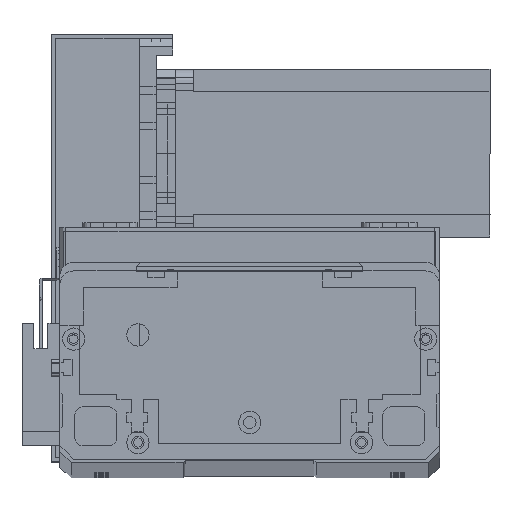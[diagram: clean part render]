
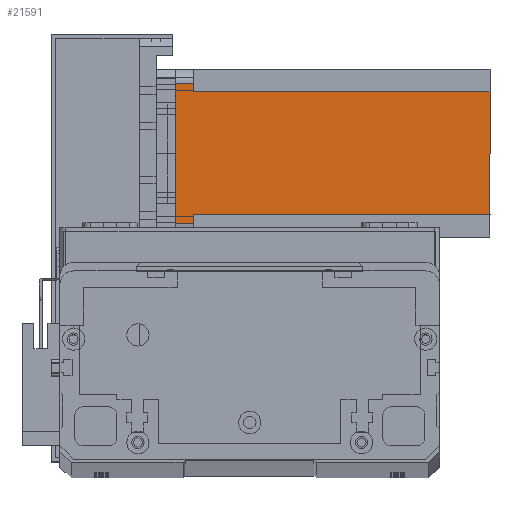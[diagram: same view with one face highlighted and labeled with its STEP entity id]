
A CAD part, top view. The second image highlights one B-rep face of the part: STEP entity #21591.
In plain terms, the highlighted planar face has unit normal (0, 0, 1) as drawn and (0, -1, 0) by its records, which use the part's own axes.
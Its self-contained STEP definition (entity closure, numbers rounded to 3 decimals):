
#146 = CARTESIAN_POINT ( 'NONE',  ( 0., 0., 0. ) ) ;
#2594 = CARTESIAN_POINT ( 'NONE',  ( 5., 0., -6.5 ) ) ;
#3054 = LINE ( 'NONE', #5882, #28085 ) ;
#3252 = DIRECTION ( 'NONE',  ( 0., -1., 0. ) ) ;
#4931 = VERTEX_POINT ( 'NONE', #16869 ) ;
#4965 = LINE ( 'NONE', #6131, #29124 ) ;
#5408 = LINE ( 'NONE', #8189, #18425 ) ;
#5534 = CARTESIAN_POINT ( 'NONE',  ( 0., 0., -112.5 ) ) ;
#5882 = CARTESIAN_POINT ( 'NONE',  ( 5., 0., -112.5 ) ) ;
#5980 = DIRECTION ( 'NONE',  ( 0., 0., -1. ) ) ;
#6098 = EDGE_LOOP ( 'NONE', ( #11736, #17032, #15186, #20441, #30064, #22695, #20837, #26791 ) ) ;
#6131 = CARTESIAN_POINT ( 'NONE',  ( 52., 0., -112.5 ) ) ;
#6200 = DIRECTION ( 'NONE',  ( 0., 0., -1. ) ) ;
#6395 = CARTESIAN_POINT ( 'NONE',  ( 52., 0., -112.5 ) ) ;
#7059 = VECTOR ( 'NONE', #27621, 1000. ) ;
#7548 = CARTESIAN_POINT ( 'NONE',  ( 55., 0., 0. ) ) ;
#7708 = VECTOR ( 'NONE', #8700, 1000. ) ;
#8106 = DIRECTION ( 'NONE',  ( 0., 0., 1. ) ) ;
#8142 = CARTESIAN_POINT ( 'NONE',  ( 55., 0., -112.5 ) ) ;
#8189 = CARTESIAN_POINT ( 'NONE',  ( 8., 0., -6.5 ) ) ;
#8202 = CARTESIAN_POINT ( 'NONE',  ( 5., 0., 0. ) ) ;
#8234 = PLANE ( 'NONE',  #24498 ) ;
#8286 = DIRECTION ( 'NONE',  ( -1., 0., 0. ) ) ;
#8700 = DIRECTION ( 'NONE',  ( 1., 0., 0. ) ) ;
#9084 = EDGE_CURVE ( 'NONE', #4931, #13065, #4965, .T. ) ;
#9249 = LINE ( 'NONE', #16363, #14977 ) ;
#9680 = EDGE_CURVE ( 'NONE', #11554, #13065, #26162, .T. ) ;
#9853 = EDGE_CURVE ( 'NONE', #11554, #14698, #13593, .T. ) ;
#10429 = EDGE_CURVE ( 'NONE', #14698, #27090, #5408, .T. ) ;
#10483 = EDGE_CURVE ( 'NONE', #24009, #27090, #3054, .T. ) ;
#11342 = EDGE_CURVE ( 'NONE', #20021, #30522, #24730, .T. ) ;
#11554 = VERTEX_POINT ( 'NONE', #27731 ) ;
#11736 = ORIENTED_EDGE ( 'NONE', *, *, #12044, .T. ) ;
#12044 = EDGE_CURVE ( 'NONE', #4931, #20021, #9249, .T. ) ;
#12723 = LINE ( 'NONE', #146, #30982 ) ;
#13065 = VERTEX_POINT ( 'NONE', #6395 ) ;
#13593 = LINE ( 'NONE', #28850, #7059 ) ;
#14698 = VERTEX_POINT ( 'NONE', #21532 ) ;
#14977 = VECTOR ( 'NONE', #17504, 1000. ) ;
#15186 = ORIENTED_EDGE ( 'NONE', *, *, #23919, .F. ) ;
#16363 = CARTESIAN_POINT ( 'NONE',  ( 52., 0., -6.5 ) ) ;
#16869 = CARTESIAN_POINT ( 'NONE',  ( 52., 0., -6.5 ) ) ;
#17032 = ORIENTED_EDGE ( 'NONE', *, *, #11342, .T. ) ;
#17413 = DIRECTION ( 'NONE',  ( 1., 0., 0. ) ) ;
#17504 = DIRECTION ( 'NONE',  ( 1., 0., 0. ) ) ;
#18425 = VECTOR ( 'NONE', #8286, 1000. ) ;
#20021 = VERTEX_POINT ( 'NONE', #25040 ) ;
#20403 = DIRECTION ( 'NONE',  ( 0., 0., -1. ) ) ;
#20441 = ORIENTED_EDGE ( 'NONE', *, *, #10483, .T. ) ;
#20837 = ORIENTED_EDGE ( 'NONE', *, *, #9680, .T. ) ;
#21532 = CARTESIAN_POINT ( 'NONE',  ( 8., 0., -6.5 ) ) ;
#21591 = ADVANCED_FACE ( 'NONE', ( #29868 ), #8234, .T. ) ;
#22695 = ORIENTED_EDGE ( 'NONE', *, *, #9853, .F. ) ;
#23919 = EDGE_CURVE ( 'NONE', #24009, #30522, #12723, .T. ) ;
#24009 = VERTEX_POINT ( 'NONE', #8202 ) ;
#24498 = AXIS2_PLACEMENT_3D ( 'NONE', #29798, #3252, #20403 ) ;
#24730 = LINE ( 'NONE', #8142, #28028 ) ;
#25040 = CARTESIAN_POINT ( 'NONE',  ( 55., 0., -6.5 ) ) ;
#26162 = LINE ( 'NONE', #5534, #7708 ) ;
#26791 = ORIENTED_EDGE ( 'NONE', *, *, #9084, .F. ) ;
#27090 = VERTEX_POINT ( 'NONE', #2594 ) ;
#27621 = DIRECTION ( 'NONE',  ( 0., 0., 1. ) ) ;
#27731 = CARTESIAN_POINT ( 'NONE',  ( 8., 0., -112.5 ) ) ;
#28028 = VECTOR ( 'NONE', #8106, 1000. ) ;
#28085 = VECTOR ( 'NONE', #5980, 1000. ) ;
#28850 = CARTESIAN_POINT ( 'NONE',  ( 8., 0., -112.5 ) ) ;
#29124 = VECTOR ( 'NONE', #6200, 1000. ) ;
#29798 = CARTESIAN_POINT ( 'NONE',  ( 0., 0., -112.5 ) ) ;
#29868 = FACE_OUTER_BOUND ( 'NONE', #6098, .T. ) ;
#30064 = ORIENTED_EDGE ( 'NONE', *, *, #10429, .F. ) ;
#30522 = VERTEX_POINT ( 'NONE', #7548 ) ;
#30982 = VECTOR ( 'NONE', #17413, 1000. ) ;
